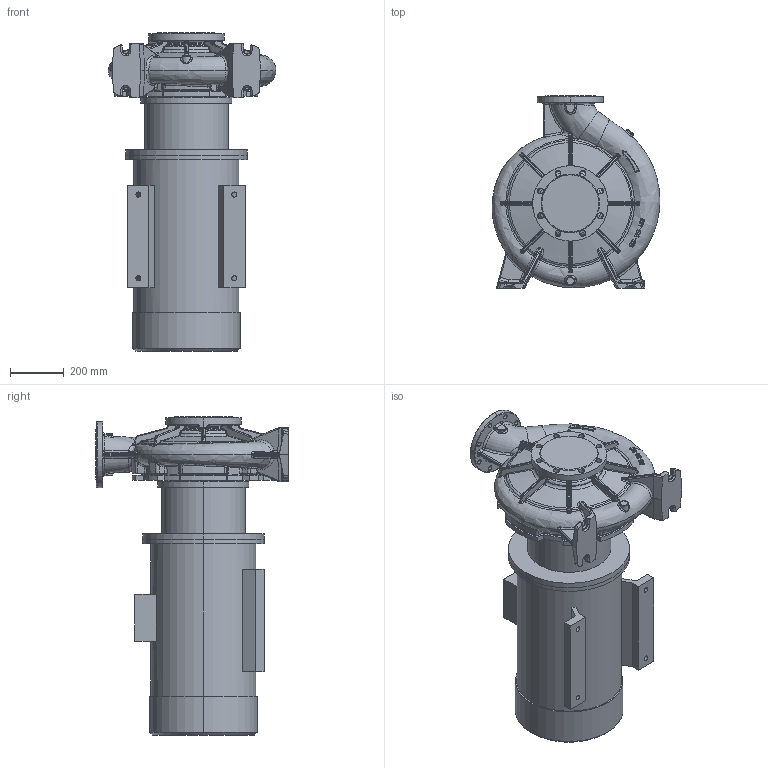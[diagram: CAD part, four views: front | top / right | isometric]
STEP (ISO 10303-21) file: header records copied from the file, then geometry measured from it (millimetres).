
FILE_DESCRIPTION (( 'STEP AP203' ), '1' );
FILE_NAME ('KRM 150-125-400-4-45.STEP', '2026-05-06T08:33:34', ( '' ), ( '' ), 'SwSTEP 2.0', 'SolidWorks 2016', '' );
FILE_SCHEMA (( 'CONFIG_CONTROL_DESIGN' ));
Length unit declared in the file: millimetre
Products named in the file (1): KRM 150-125-400-4-45
Bounding box: 623.12 x 715 x 1180.8 mm (x, y, z)
Volume: 161830438.8 mm3; surface area: 3877553.1 mm2
Topology: 4 solids, 4 shells, 1651 faces, 4126 edges, 2459 vertices
Faces by surface type: bspline 797, cylinder 312, plane 298, torus 130, cone 76, sphere 38
Entity records: 116514 total; most frequent: CARTESIAN_POINT 83328, ORIENTED_EDGE 8144, DIRECTION 5316, EDGE_CURVE 4072, VERTEX_POINT 2459, AXIS2_PLACEMENT_3D 2191, EDGE_LOOP 1721, ADVANCED_FACE 1651
